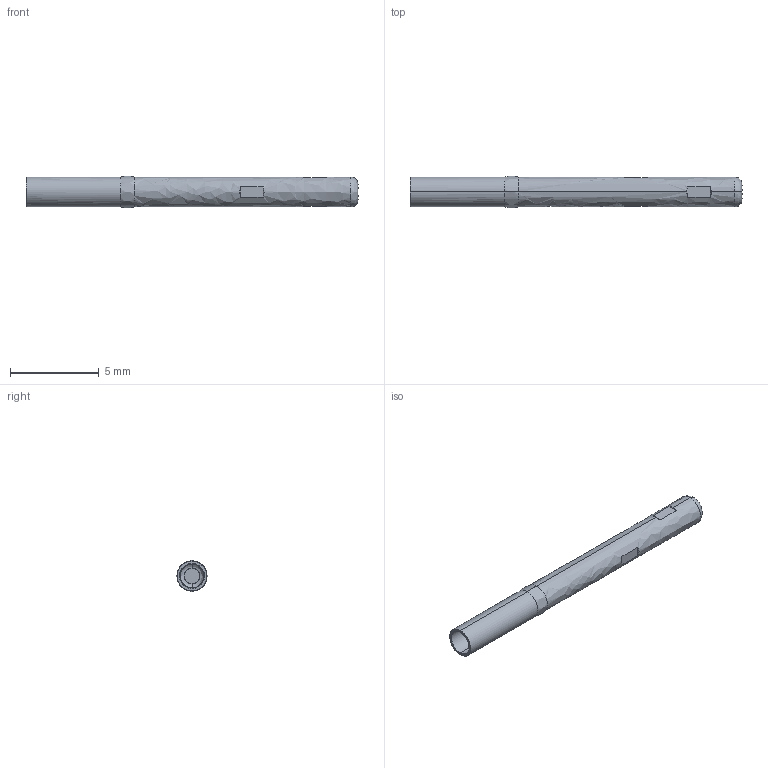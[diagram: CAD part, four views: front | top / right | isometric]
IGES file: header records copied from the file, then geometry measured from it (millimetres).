
Start section: SolidWorks IGES file using analytic representation for surfaces
Global section: file name: \\CODA-VM-SBS\RedirectedFolders\georged\My Documents\CODA CAD FILES\GENERAL PURPOSE TEST PROBES\SHORT REACH TEST PROBES\PA3\RA3P.IGS; native system: SolidWorks 2022; preprocessor: SolidWorks 2022; author: GeorgeD; date: 240212.102102; units: inch
Bounding box: 18.67 x 1.77 x 1.77 mm (x, y, z)
Surface area: 183.1 mm2 (no closed solid volume)
Topology: 0 solids, 0 shells, 43 faces, 288 edges, 288 vertices
Faces by surface type: bspline 43
